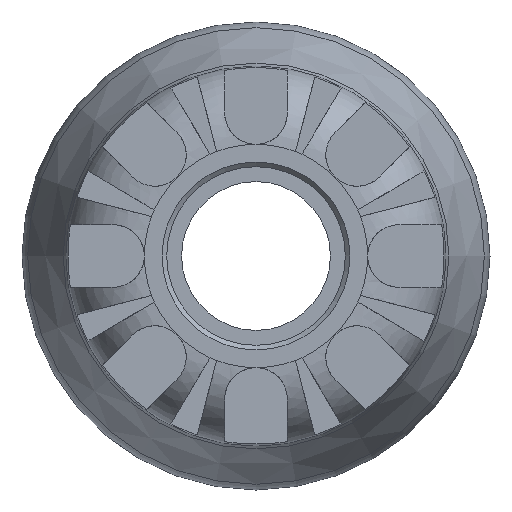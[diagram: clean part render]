
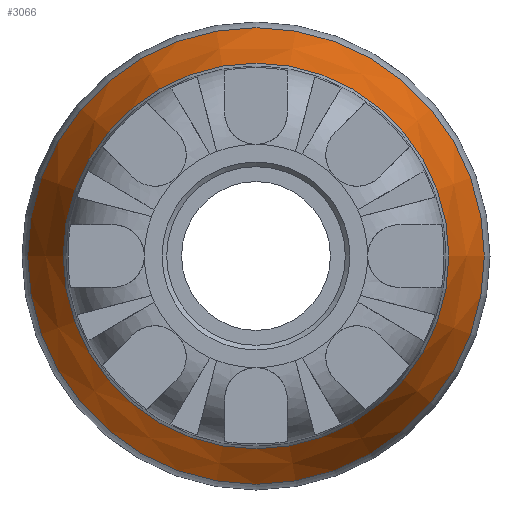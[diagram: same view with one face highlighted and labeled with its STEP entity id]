
A CAD part, left-side view. The second image highlights one B-rep face of the part: STEP entity #3066.
In plain terms, the highlighted conical face has half-angle 20 degrees and reference radius 26.06 mm.
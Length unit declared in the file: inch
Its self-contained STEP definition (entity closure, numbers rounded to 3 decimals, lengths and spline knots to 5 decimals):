
#331=FACE_OUTER_BOUND('',#508,.T.);
#508=EDGE_LOOP('',(#2147,#2148,#2149,#2150,#2151,#2152,#2153,#2154));
#674=LINE('',#5063,#831);
#831=VECTOR('',#3892,1.026);
#1063=CIRCLE('',#3357,1.1125);
#1064=CIRCLE('',#3358,1.1125);
#1065=CIRCLE('',#3359,1.1125);
#1067=CIRCLE('',#3362,0.9395);
#1068=CIRCLE('',#3363,0.9395);
#1069=CIRCLE('',#3364,0.9395);
#1273=VERTEX_POINT('',#5053);
#1274=VERTEX_POINT('',#5055);
#1275=VERTEX_POINT('',#5057);
#1276=VERTEX_POINT('',#5062);
#1277=VERTEX_POINT('',#5064);
#1278=VERTEX_POINT('',#5066);
#1599=EDGE_CURVE('',#1273,#1274,#1063,.T.);
#1600=EDGE_CURVE('',#1274,#1275,#1064,.T.);
#1601=EDGE_CURVE('',#1275,#1273,#1065,.T.);
#1603=EDGE_CURVE('',#1274,#1276,#674,.T.);
#1604=EDGE_CURVE('',#1277,#1276,#1067,.T.);
#1605=EDGE_CURVE('',#1278,#1277,#1068,.T.);
#1606=EDGE_CURVE('',#1276,#1278,#1069,.T.);
#2147=ORIENTED_EDGE('',*,*,#1601,.F.);
#2148=ORIENTED_EDGE('',*,*,#1600,.F.);
#2149=ORIENTED_EDGE('',*,*,#1603,.T.);
#2150=ORIENTED_EDGE('',*,*,#1604,.F.);
#2151=ORIENTED_EDGE('',*,*,#1605,.F.);
#2152=ORIENTED_EDGE('',*,*,#1606,.F.);
#2153=ORIENTED_EDGE('',*,*,#1603,.F.);
#2154=ORIENTED_EDGE('',*,*,#1599,.F.);
#2858=CONICAL_SURFACE('',#3361,1.026,0.349);
#3066=ADVANCED_FACE('',(#331),#2858,.T.);
#3357=AXIS2_PLACEMENT_3D('',#5056,#3882,#3883);
#3358=AXIS2_PLACEMENT_3D('',#5058,#3884,#3885);
#3359=AXIS2_PLACEMENT_3D('',#5059,#3886,#3887);
#3361=AXIS2_PLACEMENT_3D('',#5061,#3890,#3891);
#3362=AXIS2_PLACEMENT_3D('',#5065,#3893,#3894);
#3363=AXIS2_PLACEMENT_3D('',#5067,#3895,#3896);
#3364=AXIS2_PLACEMENT_3D('',#5068,#3897,#3898);
#3882=DIRECTION('center_axis',(1.,0.,0.));
#3883=DIRECTION('ref_axis',(0.,-1.,0.));
#3884=DIRECTION('center_axis',(1.,0.,0.));
#3885=DIRECTION('ref_axis',(0.,-1.,0.));
#3886=DIRECTION('center_axis',(1.,0.,0.));
#3887=DIRECTION('ref_axis',(0.,-1.,0.));
#3890=DIRECTION('center_axis',(1.,0.,0.));
#3891=DIRECTION('ref_axis',(0.,1.,0.));
#3892=DIRECTION('',(-0.94,0.342,0.));
#3893=DIRECTION('center_axis',(-1.,0.,0.));
#3894=DIRECTION('ref_axis',(0.,-1.,0.));
#3895=DIRECTION('center_axis',(-1.,0.,0.));
#3896=DIRECTION('ref_axis',(0.,-1.,0.));
#3897=DIRECTION('center_axis',(-1.,0.,0.));
#3898=DIRECTION('ref_axis',(0.,-1.,0.));
#5053=CARTESIAN_POINT('',(1.19904,0.,1.1125));
#5055=CARTESIAN_POINT('',(1.19904,-1.1125,0.));
#5056=CARTESIAN_POINT('Origin',(1.19904,0.,0.));
#5057=CARTESIAN_POINT('',(1.19904,1.1125,0.));
#5058=CARTESIAN_POINT('Origin',(1.19904,0.,0.));
#5059=CARTESIAN_POINT('Origin',(1.19904,0.,0.));
#5061=CARTESIAN_POINT('Origin',(0.96139,0.,
0.));
#5062=CARTESIAN_POINT('',(0.72373,-0.9395,0.));
#5063=CARTESIAN_POINT('',(0.96139,-1.026,0.));
#5064=CARTESIAN_POINT('',(0.72373,0.9395,0.));
#5065=CARTESIAN_POINT('Origin',(0.72373,0.,
0.));
#5066=CARTESIAN_POINT('',(0.72373,0.,0.9395));
#5067=CARTESIAN_POINT('Origin',(0.72373,0.,
0.));
#5068=CARTESIAN_POINT('Origin',(0.72373,0.,
0.));
